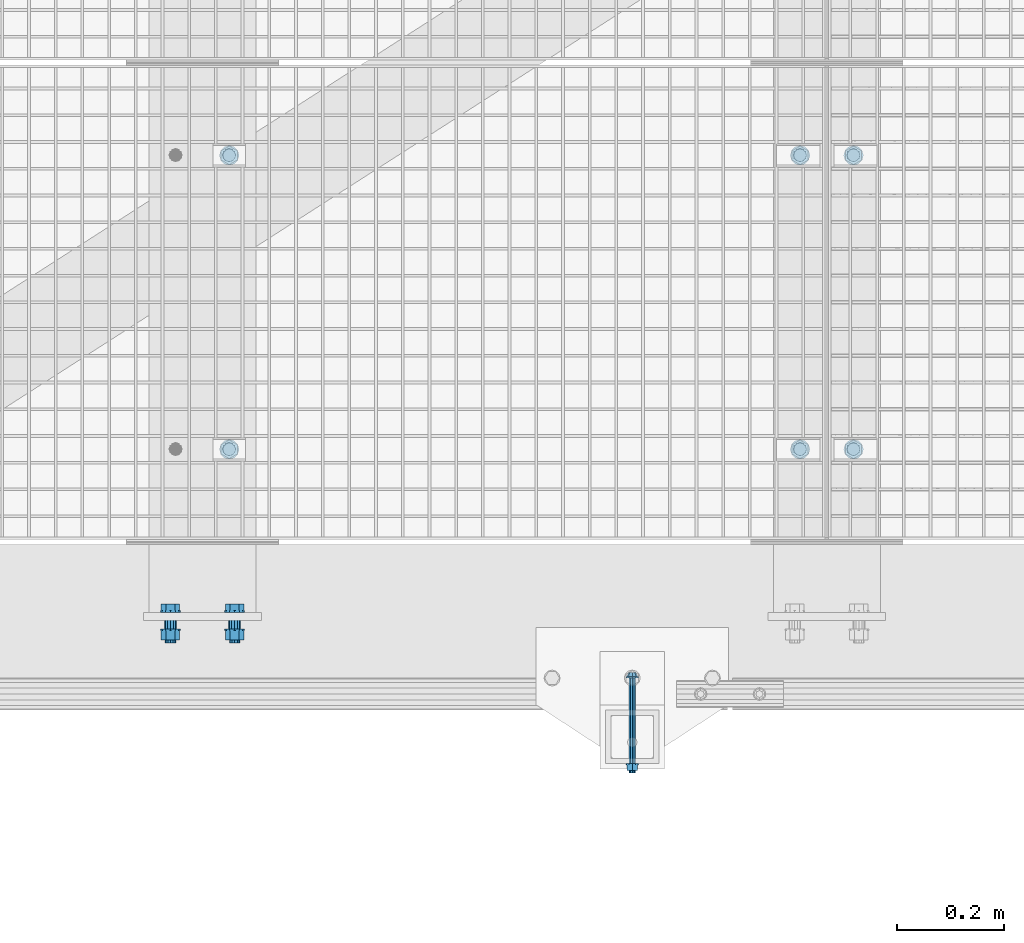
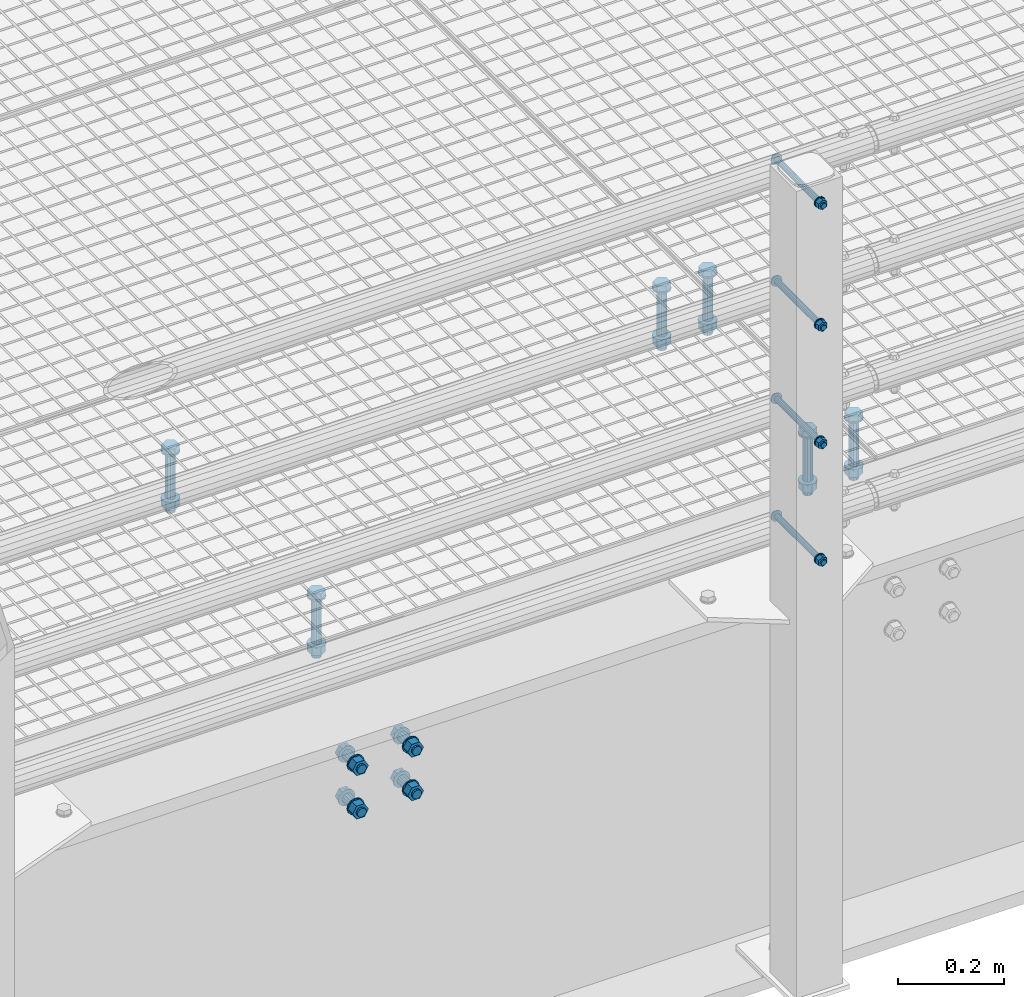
# One storey, part 18 of 1530: 8 mechanical fasteners.
"""IFC2X3 building model written with IfcOpenShell, lengths in millimetres."""

from ifc_helpers import new_model, si_unit, frame, origin_with_axes, place, context, subcontext, project, spatial, faceted_brep, source, transform, mapped, material, type_object, element, save


model = new_model("IFC2X3")

# Units and contexts
model_context = context("Model", 3, precision=1e-05, world=origin_with_axes())
body_context = subcontext(model_context, "Body", "Model", "MODEL_VIEW")
ifc_project = project(units=[si_unit("LENGTHUNIT", "METRE", prefix="MILLI"), si_unit("AREAUNIT", "SQUARE_METRE"), si_unit("VOLUMEUNIT", "CUBIC_METRE"), si_unit("MASSUNIT", "GRAM", prefix="KILO"), si_unit("TIMEUNIT", "SECOND"), si_unit("PLANEANGLEUNIT", "RADIAN"), si_unit("SOLIDANGLEUNIT", "STERADIAN"), si_unit("THERMODYNAMICTEMPERATUREUNIT", "DEGREE_CELSIUS"), si_unit("LUMINOUSINTENSITYUNIT", "LUMEN")], contexts=[model_context])

# Site, building, storey
site_placement = place(None, origin_with_axes())
site = spatial("IfcSite", under=ifc_project, at=site_placement, Name="Brattvåg", CompositionType="ELEMENT")
building_placement = place(site_placement, origin_with_axes())
building = spatial("IfcBuilding", under=site, at=building_placement, Name="Undefined", CompositionType="ELEMENT")
storey_placement = place(building_placement, origin_with_axes())
storey = spatial("IfcBuildingStorey", under=building, at=storey_placement, Name="Undefined", CompositionType="ELEMENT", Elevation=0.0)

# Mechanical fasteners
ifc_material = material(Name="8")
mechanical_fastener_type = type_object("IfcMechanicalFastenerType", Name="Bolt assembly")
shared_shape_1 = source(origin_with_axes(), body_context, "Body", "Brep", [
    faceted_brep([(17.3205080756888, -10.5, 0.0), (8.66025403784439, -10.5, 15.0), (-8.66025403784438, -10.5, 15.0), (-17.3205080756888, -10.5, 2.12115047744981e-15), (-8.66025403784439, -10.5, -15.0), (8.66025403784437, -10.5, -15.0), (8.66025403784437, 2.0, -15.0), (-8.66025403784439, 2.0, -15.0), (-17.3205080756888, 2.0, 2.12115047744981e-15), (-8.66025403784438, 2.0, 15.0), (8.66025403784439, 2.0, 15.0), (17.3205080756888, 2.0, 0.0), (10.0, 2.0, 0.0), (8.66025403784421, 2.0, 5.0000000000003), (4.9999999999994, 2.0, 8.66025403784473), (-1.03633598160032e-12, 2.0, 10.0), (-5.00000000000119, 2.0, 8.6602540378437), (-8.66025403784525, 2.0, 4.99999999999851), (-10.0, 2.0, -2.07267196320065e-12), (-8.66025403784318, 2.0, -5.00000000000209), (-4.99999999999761, 2.0, -8.66025403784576), (3.09790571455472e-12, 2.0, -10.0), (5.00000000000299, 2.0, -8.66025403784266), (8.66025403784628, 2.0, -4.99999999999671), (8.66025403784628, 142.0, -4.99999999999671), (5.00000000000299, 142.0, -8.66025403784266), (3.09790571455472e-12, 142.0, -10.0), (-4.99999999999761, 142.0, -8.66025403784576), (-8.66025403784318, 142.0, -5.00000000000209), (-10.0, 142.0, -2.07267196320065e-12), (-8.66025403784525, 142.0, 4.99999999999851), (-5.00000000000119, 142.0, 8.6602540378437), (-1.03633598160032e-12, 142.0, 10.0), (4.9999999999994, 142.0, 8.66025403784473), (8.66025403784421, 142.0, 5.0000000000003), (10.0, 142.0, 0.0), (18.5, 2.0, 0.0), (16.0214699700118, 2.0, 9.25000000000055), (9.2499999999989, 2.0, 16.0214699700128), (-1.9172215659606e-12, 2.0, 18.5), (-9.25000000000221, 2.0, 16.0214699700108), (-16.0214699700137, 2.0, 9.24999999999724), (-18.5, 2.0, -3.83444313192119e-12), (-16.0214699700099, 2.0, -9.25000000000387), (-9.24999999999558, 2.0, -16.0214699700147), (5.73112557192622e-12, 2.0, -18.5), (9.25000000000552, 2.0, -16.0214699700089), (16.0214699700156, 2.0, -9.24999999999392), (16.0214699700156, 5.0, -9.24999999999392), (9.25000000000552, 5.0, -16.0214699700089), (5.73112557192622e-12, 5.0, -18.5), (-9.24999999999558, 5.0, -16.0214699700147), (-16.0214699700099, 5.0, -9.25000000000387), (-18.5, 5.0, -3.83444313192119e-12), (-16.0214699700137, 5.0, 9.24999999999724), (-9.25000000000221, 5.0, 16.0214699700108), (-1.9172215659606e-12, 5.0, 18.5), (9.2499999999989, 5.0, 16.0214699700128), (16.0214699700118, 5.0, 9.25000000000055), (18.5, 5.0, 0.0), (18.5, 109.998931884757, 0.0), (16.0214699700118, 109.998931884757, 9.25000000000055), (9.2499999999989, 109.998931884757, 16.0214699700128), (-1.9172215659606e-12, 109.998931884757, 18.5), (-9.25000000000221, 109.998931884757, 16.0214699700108), (-16.0214699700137, 109.998931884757, 9.24999999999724), (-18.5, 109.998931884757, -3.83444313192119e-12), (-16.0214699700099, 109.998931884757, -9.25000000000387), (-9.24999999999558, 109.998931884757, -16.0214699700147), (5.73112557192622e-12, 109.998931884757, -18.5), (9.25000000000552, 109.998931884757, -16.0214699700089), (16.0214699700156, 109.998931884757, -9.24999999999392), (16.0214699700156, 112.998931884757, -9.24999999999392), (9.25000000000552, 112.998931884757, -16.0214699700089), (5.73112557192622e-12, 112.998931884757, -18.5), (-9.24999999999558, 112.998931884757, -16.0214699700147), (-16.0214699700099, 112.998931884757, -9.25000000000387), (-18.5, 112.998931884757, -3.83444313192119e-12), (-16.0214699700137, 112.998931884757, 9.24999999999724), (-9.25000000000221, 112.998931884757, 16.0214699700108), (-1.9172215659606e-12, 112.998931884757, 18.5), (9.2499999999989, 112.998931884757, 16.0214699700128), (16.0214699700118, 112.998931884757, 9.25000000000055), (18.5, 112.998931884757, 0.0), (17.3205080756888, 112.998931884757, 0.0), (8.66025403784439, 112.998931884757, 15.0), (-8.66025403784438, 112.998931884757, 15.0), (-17.3205080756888, 112.998931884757, 2.12115047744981e-15), (-8.66025403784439, 112.998931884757, -15.0), (8.66025403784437, 112.998931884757, -15.0), (8.66025403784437, 130.998931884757, -15.0), (-8.66025403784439, 130.998931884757, -15.0), (-17.3205080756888, 130.998931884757, 2.12115047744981e-15), (-8.66025403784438, 130.998931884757, 15.0), (8.66025403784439, 130.998931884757, 15.0), (17.3205080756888, 130.998931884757, 0.0)], [[[0, 1, 2, 3, 4, 5]], [[6, 7, 8, 9, 10, 11]], [[0, 11, 10, 1]], [[1, 10, 9, 2]], [[2, 9, 8, 3]], [[3, 8, 7, 4]], [[4, 7, 6, 5]], [[5, 6, 11, 0]], [[12, 13, 14, 15, 16, 17, 18, 19, 20, 21, 22, 23]], [[24, 25, 26, 27, 28, 29, 30, 31, 32, 33, 34, 35]], [[12, 35, 34, 13]], [[13, 34, 33, 14]], [[14, 33, 32, 15]], [[15, 32, 31, 16]], [[16, 31, 30, 17]], [[17, 30, 29, 18]], [[18, 29, 28, 19]], [[19, 28, 27, 20]], [[20, 27, 26, 21]], [[21, 26, 25, 22]], [[22, 25, 24, 23]], [[23, 24, 35, 12]], [[36, 37, 38, 39, 40, 41, 42, 43, 44, 45, 46, 47]], [[48, 49, 50, 51, 52, 53, 54, 55, 56, 57, 58, 59]], [[36, 59, 58, 37]], [[37, 58, 57, 38]], [[38, 57, 56, 39]], [[39, 56, 55, 40]], [[40, 55, 54, 41]], [[41, 54, 53, 42]], [[42, 53, 52, 43]], [[43, 52, 51, 44]], [[44, 51, 50, 45]], [[45, 50, 49, 46]], [[46, 49, 48, 47]], [[47, 48, 59, 36]], [[60, 61, 62, 63, 64, 65, 66, 67, 68, 69, 70, 71]], [[72, 73, 74, 75, 76, 77, 78, 79, 80, 81, 82, 83]], [[60, 83, 82, 61]], [[61, 82, 81, 62]], [[62, 81, 80, 63]], [[63, 80, 79, 64]], [[64, 79, 78, 65]], [[65, 78, 77, 66]], [[66, 77, 76, 67]], [[67, 76, 75, 68]], [[68, 75, 74, 69]], [[69, 74, 73, 70]], [[70, 73, 72, 71]], [[71, 72, 83, 60]], [[84, 85, 86, 87, 88, 89]], [[90, 91, 92, 93, 94, 95]], [[84, 95, 94, 85]], [[85, 94, 93, 86]], [[86, 93, 92, 87]], [[87, 92, 91, 88]], [[88, 91, 90, 89]], [[89, 90, 95, 84]]]),
])
for number, where, z_axis, x_axis, name in (
    (1, (9964.00477935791, 327.919311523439, -25.0), (-1.0, 1.99999855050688e-09, 0.0), (0.0, 1.0, 0.0), "Bolt assembly"),
    (2, (9864.01487731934, 327.920486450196, -25.0), (-1.0, 1.99999855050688e-09, 0.0), (0.0, 1.0, 0.0), "Bolt assembly"),
    (3, (8796.01192543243, 327.99, -25.0), (-1.0, 1.99999855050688e-09, 0.0), (0.0, 1.0, 0.0), "Bolt assembly"),
):
    element("IfcMechanicalFastener", number, at=place(storey_placement, frame(where, z_axis=z_axis, x_axis=x_axis)), inside=storey, type_object=mechanical_fastener_type, material=ifc_material, Name=name, NominalDiameter=20.0, NominalLength=140.0, context=body_context, shape_type="MappedRepresentation", body=[
        mapped(shared_shape_1, transform((0.0, 0.0, 0.0))),
        mapped(shared_shape_1, transform((549.999999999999, 0.0, 0.0))),
    ])
shared_shape_2 = source(origin_with_axes(), body_context, "Body", "Brep", [
    faceted_brep([(6.49435320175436, -9.99984019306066, 0.0), (4.59220118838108, -9.99984019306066, 4.59220118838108), (3.97664443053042e-16, -9.99984019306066, 6.49435320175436), (-4.59220118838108, -9.99984019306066, 4.59220118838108), (-6.49435320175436, -9.99984019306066, 7.95328886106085e-16), (-4.59220118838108, -9.99984019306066, -4.59220118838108), (-1.19299332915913e-15, -9.99984019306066, -6.49435320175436), (4.59220118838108, -9.99984019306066, -4.59220118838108), (7.34846922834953, -2.49984019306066, -7.34846922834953), (-1.90903542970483e-15, -2.49984019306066, -10.3923048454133), (-7.34846922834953, -2.49984019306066, -7.34846922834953), (-10.3923048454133, -2.49984019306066, 1.27269028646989e-15), (-7.34846922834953, -2.49984019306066, 7.34846922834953), (6.36345143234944e-16, -2.49984019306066, 10.3923048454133), (7.34846922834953, -2.49984019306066, 7.34846922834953), (10.3923048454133, -2.49984019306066, 0.0), (6.0, -2.49984019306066, 0.0), (5.19615242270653, -2.49984019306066, 3.00000000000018), (2.99999999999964, -2.49984019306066, 5.19615242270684), (-6.21801588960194e-13, -2.49984019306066, 6.0), (-3.00000000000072, -2.49984019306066, 5.19615242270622), (-5.19615242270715, -2.49984019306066, 2.9999999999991), (-6.0, -2.49984019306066, -1.24360317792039e-12), (-5.19615242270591, -2.49984019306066, -3.00000000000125), (-2.99999999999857, -2.49984019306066, -5.19615242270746), (1.85874342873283e-12, -2.49984019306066, -6.0), (3.00000000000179, -2.49984019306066, -5.1961524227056), (5.19615242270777, -2.49984019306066, -2.99999999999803), (5.19615242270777, 177.500159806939, -2.99999999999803), (3.00000000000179, 177.500159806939, -5.1961524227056), (1.85874342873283e-12, 177.500159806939, -6.0), (-2.99999999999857, 177.500159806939, -5.19615242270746), (-5.19615242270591, 177.500159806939, -3.00000000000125), (-6.0, 177.500159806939, -1.24360317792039e-12), (-5.19615242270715, 177.500159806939, 2.9999999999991), (-3.00000000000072, 177.500159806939, 5.19615242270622), (-6.21801588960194e-13, 177.500159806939, 6.0), (2.99999999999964, 177.500159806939, 5.19615242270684), (5.19615242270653, 177.500159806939, 3.00000000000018), (6.0, 177.500159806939, 0.0), (12.0, -2.49984019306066, 0.0), (10.3923048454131, -2.49984019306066, 6.00000000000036), (5.99999999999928, -2.49984019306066, 10.3923048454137), (-1.24360317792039e-12, -2.49984019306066, 12.0), (-6.00000000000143, -2.49984019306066, 10.3923048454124), (-10.3923048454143, -2.49984019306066, 5.99999999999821), (-12.0, -2.49984019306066, -2.48720635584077e-12), (-10.3923048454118, -2.49984019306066, -6.00000000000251), (-5.99999999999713, -2.49984019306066, -10.3923048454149), (3.71748685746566e-12, -2.49984019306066, -12.0), (6.00000000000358, -2.49984019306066, -10.3923048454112), (10.3923048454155, -2.49984019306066, -5.99999999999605), (10.3923048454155, 0.000159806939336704, -5.99999999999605), (6.00000000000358, 0.000159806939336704, -10.3923048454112), (3.71748685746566e-12, 0.000159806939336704, -12.0), (-5.99999999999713, 0.000159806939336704, -10.3923048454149), (-10.3923048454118, 0.000159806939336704, -6.00000000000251), (-12.0, 0.000159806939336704, -2.48720635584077e-12), (-10.3923048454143, 0.000159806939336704, 5.99999999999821), (-6.00000000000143, 0.000159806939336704, 10.3923048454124), (-1.24360317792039e-12, 0.000159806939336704, 12.0), (5.99999999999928, 0.000159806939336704, 10.3923048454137), (10.3923048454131, 0.000159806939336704, 6.00000000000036), (12.0, 0.000159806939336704, 0.0), (12.0, 160.299998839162, 0.0), (10.3923048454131, 160.299998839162, 6.00000000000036), (5.99999999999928, 160.299998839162, 10.3923048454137), (-1.24360317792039e-12, 160.299998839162, 12.0), (-6.00000000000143, 160.299998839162, 10.3923048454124), (-10.3923048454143, 160.299998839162, 5.99999999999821), (-12.0, 160.299998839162, -2.48720635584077e-12), (-10.3923048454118, 160.299998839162, -6.00000000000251), (-5.99999999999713, 160.299998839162, -10.3923048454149), (3.71748685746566e-12, 160.299998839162, -12.0), (6.00000000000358, 160.299998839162, -10.3923048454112), (10.3923048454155, 160.299998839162, -5.99999999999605), (10.3923048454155, 162.799998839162, -5.99999999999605), (6.00000000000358, 162.799998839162, -10.3923048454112), (3.71748685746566e-12, 162.799998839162, -12.0), (-5.99999999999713, 162.799998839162, -10.3923048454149), (-10.3923048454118, 162.799998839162, -6.00000000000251), (-12.0, 162.799998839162, -2.48720635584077e-12), (-10.3923048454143, 162.799998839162, 5.99999999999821), (-6.00000000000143, 162.799998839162, 10.3923048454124), (-1.24360317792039e-12, 162.799998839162, 12.0), (5.99999999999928, 162.799998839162, 10.3923048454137), (10.3923048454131, 162.799998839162, 6.00000000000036), (12.0, 162.799998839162, 0.0), (10.9696551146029, 162.799998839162, 0.0), (5.48482755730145, 162.799998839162, 9.5), (-5.48482755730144, 162.799998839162, 9.5), (-10.9696551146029, 162.799998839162, 1.34339530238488e-15), (-5.48482755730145, 162.799998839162, -9.5), (5.48482755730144, 162.799998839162, -9.5), (5.48482755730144, 173.599999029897, -9.5), (-5.48482755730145, 173.599999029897, -9.5), (-10.9696551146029, 173.599999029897, 1.34339530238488e-15), (-5.48482755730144, 173.599999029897, 9.5), (5.48482755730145, 173.599999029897, 9.5), (10.9696551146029, 173.599999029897, 0.0)], [[[0, 1, 2, 3, 4, 5, 6, 7]], [[8, 9, 10, 11, 12, 13, 14, 15]], [[0, 15, 14, 1]], [[1, 14, 13, 2]], [[2, 13, 12, 3]], [[3, 12, 11, 4]], [[4, 11, 10, 5]], [[5, 10, 9, 6]], [[6, 9, 8, 7]], [[7, 8, 15, 0]], [[16, 17, 18, 19, 20, 21, 22, 23, 24, 25, 26, 27]], [[28, 29, 30, 31, 32, 33, 34, 35, 36, 37, 38, 39]], [[16, 39, 38, 17]], [[17, 38, 37, 18]], [[18, 37, 36, 19]], [[19, 36, 35, 20]], [[20, 35, 34, 21]], [[21, 34, 33, 22]], [[22, 33, 32, 23]], [[23, 32, 31, 24]], [[24, 31, 30, 25]], [[25, 30, 29, 26]], [[26, 29, 28, 27]], [[27, 28, 39, 16]], [[40, 41, 42, 43, 44, 45, 46, 47, 48, 49, 50, 51]], [[52, 53, 54, 55, 56, 57, 58, 59, 60, 61, 62, 63]], [[40, 63, 62, 41]], [[41, 62, 61, 42]], [[42, 61, 60, 43]], [[43, 60, 59, 44]], [[44, 59, 58, 45]], [[45, 58, 57, 46]], [[46, 57, 56, 47]], [[47, 56, 55, 48]], [[48, 55, 54, 49]], [[49, 54, 53, 50]], [[50, 53, 52, 51]], [[51, 52, 63, 40]], [[64, 65, 66, 67, 68, 69, 70, 71, 72, 73, 74, 75]], [[76, 77, 78, 79, 80, 81, 82, 83, 84, 85, 86, 87]], [[64, 87, 86, 65]], [[65, 86, 85, 66]], [[66, 85, 84, 67]], [[67, 84, 83, 68]], [[68, 83, 82, 69]], [[69, 82, 81, 70]], [[70, 81, 80, 71]], [[71, 80, 79, 72]], [[72, 79, 78, 73]], [[73, 78, 77, 74]], [[74, 77, 76, 75]], [[75, 76, 87, 64]], [[88, 89, 90, 91, 92, 93]], [[94, 95, 96, 97, 98, 99]], [[88, 99, 98, 89]], [[89, 98, 97, 90]], [[90, 97, 96, 91]], [[91, 96, 95, 92]], [[92, 95, 94, 93]], [[93, 94, 99, 88]]]),
    faceted_brep([(6.5, 0.100159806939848, 0.0), (5.62916512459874, 0.100159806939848, 3.25000000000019), (3.24999999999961, 0.100159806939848, 5.62916512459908), (-6.7361838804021e-13, 0.100159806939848, 6.5), (-3.25000000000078, 0.100159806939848, 5.6291651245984), (-5.62916512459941, 0.100159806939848, 3.24999999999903), (-6.5, 0.100159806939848, -1.34723677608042e-12), (-5.62916512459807, 0.100159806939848, -3.25000000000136), (-3.24999999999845, 0.100159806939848, -5.62916512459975), (2.01363871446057e-12, 0.100159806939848, -6.5), (3.25000000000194, 0.100159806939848, -5.62916512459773), (5.62916512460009, 0.100159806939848, -3.24999999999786), (5.62916512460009, 60.4001552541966, -3.24999999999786), (3.25000000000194, 60.4001552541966, -5.62916512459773), (2.01363871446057e-12, 60.4001552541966, -6.5), (-3.24999999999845, 60.4001552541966, -5.62916512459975), (-5.62916512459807, 60.4001552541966, -3.25000000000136), (-6.5, 60.4001552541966, -1.34723677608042e-12), (-5.62916512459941, 60.4001552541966, 3.24999999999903), (-3.25000000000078, 60.4001552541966, 5.6291651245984), (-6.7361838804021e-13, 60.4001552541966, 6.5), (3.24999999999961, 60.4001552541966, 5.62916512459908), (5.62916512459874, 60.4001552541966, 3.25000000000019), (6.5, 60.4001552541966, 0.0), (6.5, 60.1999988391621, 0.0), (5.62916512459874, 60.1999988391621, 3.25000000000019), (3.24999999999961, 60.1999988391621, 5.62916512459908), (-6.7361838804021e-13, 60.1999988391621, 6.5), (-3.25000000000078, 60.1999988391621, 5.6291651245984), (-5.62916512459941, 60.1999988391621, 3.24999999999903), (-6.5, 60.1999988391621, -1.34723677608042e-12), (-5.62916512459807, 60.1999988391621, -3.25000000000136), (-3.24999999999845, 60.1999988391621, -5.62916512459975), (2.01363871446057e-12, 60.1999988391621, -6.5), (3.25000000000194, 60.1999988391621, -5.62916512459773), (5.62916512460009, 60.1999988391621, -3.24999999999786), (5.62916512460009, 160.299998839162, -3.24999999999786), (3.25000000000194, 160.299998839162, -5.62916512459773), (2.01363871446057e-12, 160.299998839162, -6.5), (-3.24999999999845, 160.299998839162, -5.62916512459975), (-5.62916512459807, 160.299998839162, -3.25000000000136), (-6.5, 160.299998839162, -1.34723677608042e-12), (-5.62916512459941, 160.299998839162, 3.24999999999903), (-3.25000000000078, 160.299998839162, 5.6291651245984), (-6.7361838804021e-13, 160.299998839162, 6.5), (3.24999999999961, 160.299998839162, 5.62916512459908), (5.62916512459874, 160.299998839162, 3.25000000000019), (6.5, 160.299998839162, 0.0)], [[[0, 1, 2, 3, 4, 5, 6, 7, 8, 9, 10, 11]], [[12, 13, 14, 15, 16, 17, 18, 19, 20, 21, 22, 23]], [[0, 23, 22, 1]], [[1, 22, 21, 2]], [[2, 21, 20, 3]], [[3, 20, 19, 4]], [[4, 19, 18, 5]], [[5, 18, 17, 6]], [[6, 17, 16, 7]], [[7, 16, 15, 8]], [[8, 15, 14, 9]], [[9, 14, 13, 10]], [[10, 13, 12, 11]], [[11, 12, 23, 0]], [[24, 25, 26, 27, 28, 29, 30, 31, 32, 33, 34, 35]], [[36, 37, 38, 39, 40, 41, 42, 43, 44, 45, 46, 47]], [[24, 47, 46, 25]], [[25, 46, 45, 26]], [[26, 45, 44, 27]], [[27, 44, 43, 28]], [[28, 43, 42, 29]], [[29, 42, 41, 30]], [[30, 41, 40, 31]], [[31, 40, 39, 32]], [[32, 39, 38, 33]], [[33, 38, 37, 34]], [[34, 37, 36, 35]], [[35, 36, 47, 24]]]),
])
for number, where, z_axis, x_axis, name in (
    (4, (9549.9999999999, -99.6997226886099, 149.550000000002), (-1.0, 1.99999855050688e-09, 0.0), (0.0, 0.0, -1.0), "Bolt assembly"),
    (5, (9549.9999999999, -99.6997226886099, 419.550000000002), (-1.0, 1.99999855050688e-09, 0.0), (0.0, 0.0, -1.0), "Bolt assembly"),
    (6, (9549.9999999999, -99.6997226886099, 689.550000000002), (-1.0, 1.99999855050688e-09, 0.0), (0.0, 0.0, -1.0), "Bolt assembly"),
    (7, (9549.9999999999, -99.6997226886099, 969.550000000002), (-1.0, 1.99999855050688e-09, 0.0), (0.0, 0.0, -1.0), "Bolt assembly"),
):
    element("IfcMechanicalFastener", number, at=place(storey_placement, frame(where, z_axis=z_axis, x_axis=x_axis)), inside=storey, type_object=mechanical_fastener_type, material=ifc_material, Name=name, NominalDiameter=12.0, NominalLength=180.0, context=body_context, shape_type="MappedRepresentation", body=[
        mapped(shared_shape_2, transform((0.0, 0.0, 0.0))),
    ])
shared_shape_3 = source(origin_with_axes(), body_context, "Body", "Brep", [
    faceted_brep([(17.3205080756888, -15.5000000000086, 0.0), (8.66025403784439, -15.5000000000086, 15.0), (-8.66025403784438, -15.5000000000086, 15.0), (-17.3205080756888, -15.5000000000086, 2.12115047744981e-15), (-8.66025403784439, -15.5000000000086, -15.0), (8.66025403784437, -15.5000000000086, -15.0), (8.66025403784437, -3.00000000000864, -15.0), (-8.66025403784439, -3.00000000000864, -15.0), (-17.3205080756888, -3.00000000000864, 2.12115047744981e-15), (-8.66025403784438, -3.00000000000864, 15.0), (8.66025403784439, -3.00000000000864, 15.0), (17.3205080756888, -3.00000000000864, 0.0), (10.0, -3.00000000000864, 0.0), (8.66025403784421, -3.00000000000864, 5.0000000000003), (4.9999999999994, -3.00000000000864, 8.66025403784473), (-1.03633598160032e-12, -3.00000000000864, 10.0), (-5.00000000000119, -3.00000000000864, 8.6602540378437), (-8.66025403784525, -3.00000000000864, 4.99999999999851), (-10.0, -3.00000000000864, -2.07267196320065e-12), (-8.66025403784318, -3.00000000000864, -5.00000000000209), (-4.99999999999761, -3.00000000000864, -8.66025403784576), (3.09790571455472e-12, -3.00000000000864, -10.0), (5.00000000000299, -3.00000000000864, -8.66025403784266), (8.66025403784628, -3.00000000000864, -4.99999999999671), (8.66025403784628, 57.0, -4.99999999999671), (5.00000000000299, 57.0, -8.66025403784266), (3.09790571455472e-12, 57.0, -10.0), (-4.99999999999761, 57.0, -8.66025403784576), (-8.66025403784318, 57.0, -5.00000000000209), (-10.0, 57.0, -2.07267196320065e-12), (-8.66025403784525, 57.0, 4.99999999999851), (-5.00000000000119, 57.0, 8.6602540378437), (-1.03633598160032e-12, 57.0, 10.0), (4.9999999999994, 57.0, 8.66025403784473), (8.66025403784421, 57.0, 5.0000000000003), (10.0, 57.0, 0.0), (18.5, -3.00000000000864, 0.0), (16.0214699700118, -3.00000000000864, 9.25000000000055), (9.2499999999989, -3.00000000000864, 16.0214699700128), (-1.9172215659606e-12, -3.00000000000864, 18.5), (-9.25000000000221, -3.00000000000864, 16.0214699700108), (-16.0214699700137, -3.00000000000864, 9.24999999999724), (-18.5, -3.00000000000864, -3.83444313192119e-12), (-16.0214699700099, -3.00000000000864, -9.25000000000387), (-9.24999999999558, -3.00000000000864, -16.0214699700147), (5.73112557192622e-12, -3.00000000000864, -18.5), (9.25000000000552, -3.00000000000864, -16.0214699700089), (16.0214699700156, -3.00000000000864, -9.24999999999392), (16.0214699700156, -8.64019966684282e-12, -9.24999999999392), (9.25000000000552, -8.64019966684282e-12, -16.0214699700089), (5.73112557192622e-12, -8.64019966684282e-12, -18.5), (-9.24999999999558, -8.64019966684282e-12, -16.0214699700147), (-16.0214699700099, -8.64019966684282e-12, -9.25000000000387), (-18.5, -8.64019966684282e-12, -3.83444313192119e-12), (-16.0214699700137, -8.64019966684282e-12, 9.24999999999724), (-9.25000000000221, -8.64019966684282e-12, 16.0214699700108), (-1.9172215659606e-12, -8.64019966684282e-12, 18.5), (9.2499999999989, -8.64019966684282e-12, 16.0214699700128), (16.0214699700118, -8.64019966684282e-12, 9.25000000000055), (18.5, -8.64019966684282e-12, 0.0), (18.5, 31.0015563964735, 0.0), (16.0214699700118, 31.0015563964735, 9.25000000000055), (9.2499999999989, 31.0015563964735, 16.0214699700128), (-1.9172215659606e-12, 31.0015563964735, 18.5), (-9.25000000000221, 31.0015563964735, 16.0214699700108), (-16.0214699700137, 31.0015563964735, 9.24999999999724), (-18.5, 31.0015563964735, -3.83444313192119e-12), (-16.0214699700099, 31.0015563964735, -9.25000000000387), (-9.24999999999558, 31.0015563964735, -16.0214699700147), (5.73112557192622e-12, 31.0015563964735, -18.5), (9.25000000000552, 31.0015563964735, -16.0214699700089), (16.0214699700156, 31.0015563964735, -9.24999999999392), (16.0214699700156, 34.0015563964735, -9.24999999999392), (9.25000000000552, 34.0015563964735, -16.0214699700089), (5.73112557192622e-12, 34.0015563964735, -18.5), (-9.24999999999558, 34.0015563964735, -16.0214699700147), (-16.0214699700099, 34.0015563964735, -9.25000000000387), (-18.5, 34.0015563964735, -3.83444313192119e-12), (-16.0214699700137, 34.0015563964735, 9.24999999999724), (-9.25000000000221, 34.0015563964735, 16.0214699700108), (-1.9172215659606e-12, 34.0015563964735, 18.5), (9.2499999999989, 34.0015563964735, 16.0214699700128), (16.0214699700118, 34.0015563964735, 9.25000000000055), (18.5, 34.0015563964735, 0.0), (17.3205080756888, 34.0015563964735, 0.0), (8.66025403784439, 34.0015563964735, 15.0), (-8.66025403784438, 34.0015563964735, 15.0), (-17.3205080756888, 34.0015563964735, 2.12115047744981e-15), (-8.66025403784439, 34.0015563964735, -15.0), (8.66025403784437, 34.0015563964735, -15.0), (8.66025403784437, 52.0015563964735, -15.0), (-8.66025403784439, 52.0015563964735, -15.0), (-17.3205080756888, 52.0015563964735, 2.12115047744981e-15), (-8.66025403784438, 52.0015563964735, 15.0), (8.66025403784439, 52.0015563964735, 15.0), (17.3205080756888, 52.0015563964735, 0.0)], [[[0, 1, 2, 3, 4, 5]], [[6, 7, 8, 9, 10, 11]], [[0, 11, 10, 1]], [[1, 10, 9, 2]], [[2, 9, 8, 3]], [[3, 8, 7, 4]], [[4, 7, 6, 5]], [[5, 6, 11, 0]], [[12, 13, 14, 15, 16, 17, 18, 19, 20, 21, 22, 23]], [[24, 25, 26, 27, 28, 29, 30, 31, 32, 33, 34, 35]], [[12, 35, 34, 13]], [[13, 34, 33, 14]], [[14, 33, 32, 15]], [[15, 32, 31, 16]], [[16, 31, 30, 17]], [[17, 30, 29, 18]], [[18, 29, 28, 19]], [[19, 28, 27, 20]], [[20, 27, 26, 21]], [[21, 26, 25, 22]], [[22, 25, 24, 23]], [[23, 24, 35, 12]], [[36, 37, 38, 39, 40, 41, 42, 43, 44, 45, 46, 47]], [[48, 49, 50, 51, 52, 53, 54, 55, 56, 57, 58, 59]], [[36, 59, 58, 37]], [[37, 58, 57, 38]], [[38, 57, 56, 39]], [[39, 56, 55, 40]], [[40, 55, 54, 41]], [[41, 54, 53, 42]], [[42, 53, 52, 43]], [[43, 52, 51, 44]], [[44, 51, 50, 45]], [[45, 50, 49, 46]], [[46, 49, 48, 47]], [[47, 48, 59, 36]], [[60, 61, 62, 63, 64, 65, 66, 67, 68, 69, 70, 71]], [[72, 73, 74, 75, 76, 77, 78, 79, 80, 81, 82, 83]], [[60, 83, 82, 61]], [[61, 82, 81, 62]], [[62, 81, 80, 63]], [[63, 80, 79, 64]], [[64, 79, 78, 65]], [[65, 78, 77, 66]], [[66, 77, 76, 67]], [[67, 76, 75, 68]], [[68, 75, 74, 69]], [[69, 74, 73, 70]], [[70, 73, 72, 71]], [[71, 72, 83, 60]], [[84, 85, 86, 87, 88, 89]], [[90, 91, 92, 93, 94, 95]], [[84, 95, 94, 85]], [[85, 94, 93, 86]], [[86, 93, 92, 87]], [[87, 92, 91, 88]], [[88, 91, 90, 89]], [[89, 90, 95, 84]]]),
    faceted_brep([(11.0, 0.1, 0.0), (9.52627944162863, 0.1, 5.50000000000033), (5.49999999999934, 0.1, 9.5262794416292), (-1.13996957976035e-12, 0.1, 11.0), (-5.50000000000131, 0.1, 9.52627944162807), (-9.52627944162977, 0.1, 5.49999999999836), (-11.0, 0.1, -2.27993915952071e-12), (-9.5262794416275, 0.1, -5.5000000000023), (-5.49999999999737, 0.1, -9.52627944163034), (3.40769628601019e-12, 0.1, -11.0), (5.50000000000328, 0.1, -9.52627944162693), (9.52627944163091, 0.1, -5.49999999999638), (9.52627944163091, 15.1, -5.49999999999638), (5.50000000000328, 15.1, -9.52627944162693), (3.40769628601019e-12, 15.1, -11.0), (-5.49999999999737, 15.1, -9.52627944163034), (-9.5262794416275, 15.1, -5.5000000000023), (-11.0, 15.1, -2.27993915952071e-12), (-9.52627944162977, 15.1, 5.49999999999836), (-5.50000000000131, 15.1, 9.52627944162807), (-1.13996957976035e-12, 15.1, 11.0), (5.49999999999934, 15.1, 9.5262794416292), (9.52627944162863, 15.1, 5.50000000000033), (11.0, 15.1, 0.0), (11.0, 14.9015563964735, 0.0), (9.52627944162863, 14.9015563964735, 5.50000000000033), (5.49999999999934, 14.9015563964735, 9.5262794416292), (-1.13996957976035e-12, 14.9015563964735, 11.0), (-5.50000000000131, 14.9015563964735, 9.52627944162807), (-9.52627944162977, 14.9015563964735, 5.49999999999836), (-11.0, 14.9015563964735, -2.27993915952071e-12), (-9.5262794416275, 14.9015563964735, -5.5000000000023), (-5.49999999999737, 14.9015563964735, -9.52627944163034), (3.40769628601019e-12, 14.9015563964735, -11.0), (5.50000000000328, 14.9015563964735, -9.52627944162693), (9.52627944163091, 14.9015563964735, -5.49999999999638), (9.52627944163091, 31.0015563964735, -5.49999999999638), (5.50000000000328, 31.0015563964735, -9.52627944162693), (3.40769628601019e-12, 31.0015563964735, -11.0), (-5.49999999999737, 31.0015563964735, -9.52627944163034), (-9.5262794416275, 31.0015563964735, -5.5000000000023), (-11.0, 31.0015563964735, -2.27993915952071e-12), (-9.52627944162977, 31.0015563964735, 5.49999999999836), (-5.50000000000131, 31.0015563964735, 9.52627944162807), (-1.13996957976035e-12, 31.0015563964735, 11.0), (5.49999999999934, 31.0015563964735, 9.5262794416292), (9.52627944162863, 31.0015563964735, 5.50000000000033), (11.0, 31.0015563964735, 0.0)], [[[0, 1, 2, 3, 4, 5, 6, 7, 8, 9, 10, 11]], [[12, 13, 14, 15, 16, 17, 18, 19, 20, 21, 22, 23]], [[0, 23, 22, 1]], [[1, 22, 21, 2]], [[2, 21, 20, 3]], [[3, 20, 19, 4]], [[4, 19, 18, 5]], [[5, 18, 17, 6]], [[6, 17, 16, 7]], [[7, 16, 15, 8]], [[8, 15, 14, 9]], [[9, 14, 13, 10]], [[10, 13, 12, 11]], [[11, 12, 23, 0]], [[24, 25, 26, 27, 28, 29, 30, 31, 32, 33, 34, 35]], [[36, 37, 38, 39, 40, 41, 42, 43, 44, 45, 46, 47]], [[24, 47, 46, 25]], [[25, 46, 45, 26]], [[26, 45, 44, 27]], [[27, 44, 43, 28]], [[28, 43, 42, 29]], [[29, 42, 41, 30]], [[30, 41, 40, 31]], [[31, 40, 39, 32]], [[32, 39, 38, 33]], [[33, 38, 37, 34]], [[34, 37, 36, 35]], [[35, 36, 47, 24]]]),
])
mechanical_fastener_placement = place(storey_placement, frame((8806.00196838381, 23.0015563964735, -219.998836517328), z_axis=(0.0, 0.0, 1.0), x_axis=(-1.0, 1.99999855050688e-09, 0.0)))
element("IfcMechanicalFastener", 8, at=mechanical_fastener_placement, inside=storey, type_object=mechanical_fastener_type, material=ifc_material, Name="Bolt assembly", NominalDiameter=20.0, NominalLength=60.0, context=body_context, shape_type="MappedRepresentation", body=[
    mapped(shared_shape_3, transform((0.0, 0.0, -50.0))),
    mapped(shared_shape_3, transform((120.0, 0.0, -50.0))),
    mapped(shared_shape_3, transform((0.0, 0.0, 50.0))),
    mapped(shared_shape_3, transform((120.0, 0.0, 50.0))),
])

save(model, "model.ifc")
